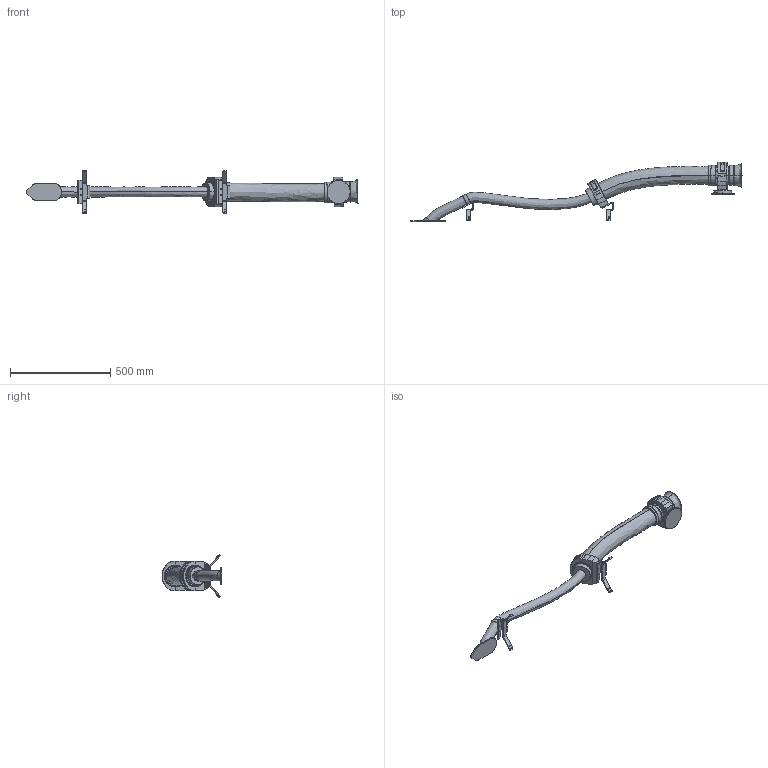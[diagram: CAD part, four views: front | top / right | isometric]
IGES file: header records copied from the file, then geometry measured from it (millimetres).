
Start section: SolidWorks IGES file using analytic representation for surfaces
Global section: file name: C:\Users\SEJAOLS6\OneDrive - ABB\Documents\SAP\7710\7710_Lightweight_models\IRB7710-LID-MH_280kg-350_OC_01_SW_J\IRB7710-LID-MH_280kg-350_OC_01_IGES_J\IRB77X0-LID_All-350_OC_01_LINK04_CABLE.igs; native system: SolidWorks 2024; preprocessor: SolidWorks 2024; author: SEJAOLS6; date: 260126.160021; units: millimetre
Bounding box: 1656.81 x 298.27 x 213.34 mm (x, y, z)
Surface area: 562728.8 mm2 (no closed solid volume)
Topology: 0 solids, 0 shells, 467 faces, 8908 edges, 8906 vertices
Faces by surface type: bspline 260, revolution 207
